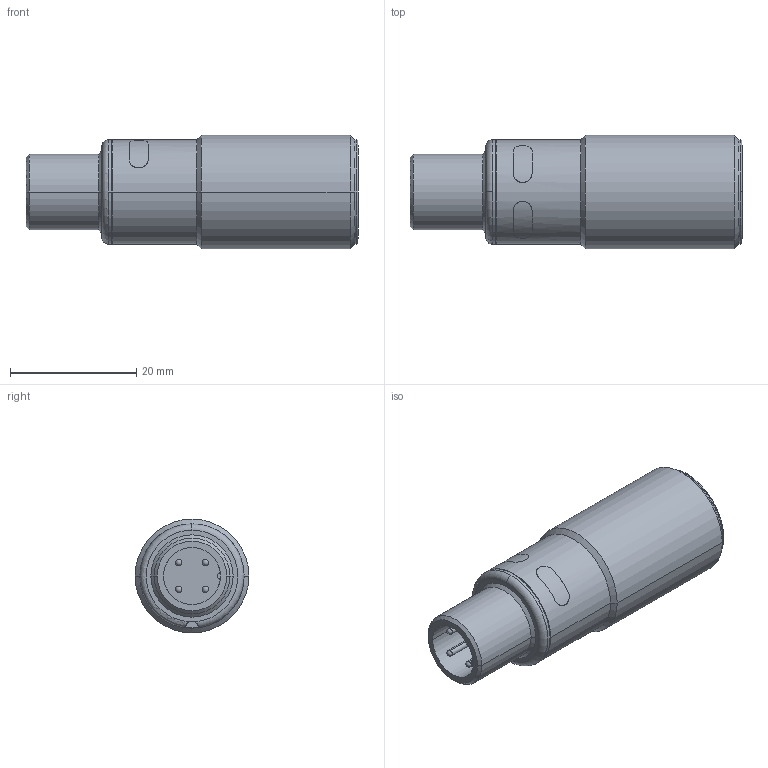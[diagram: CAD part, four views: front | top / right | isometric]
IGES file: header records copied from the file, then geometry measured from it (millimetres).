
Global section: file name: No Iges File Name specified; native system: Autodesk Inventor 2009; preprocessor: AutoDesk Inventor Iges Exporter R2009; author: Oliver Liedtke; date: 20120227.115228; units: millimetre
Bounding box: 52.5 x 18 x 18 mm (x, y, z)
Volume: 10503.6 mm3; surface area: 3403.6 mm2
Topology: 1 solids, 1 shells, 64 faces, 147 edges, 89 vertices
Faces by surface type: cylinder 25, plane 14, cone 8, revolution 5, torus 4, bspline 4, sphere 4
